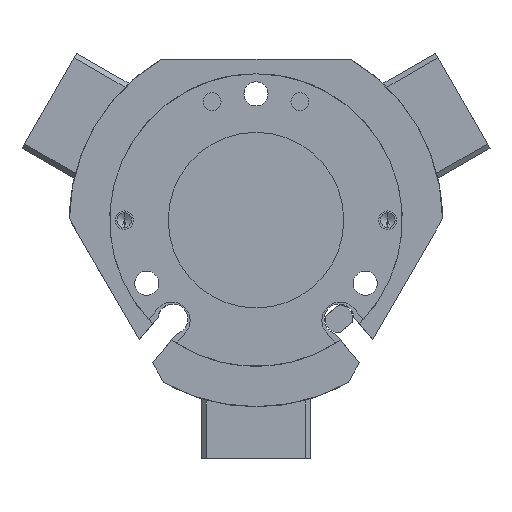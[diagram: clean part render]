
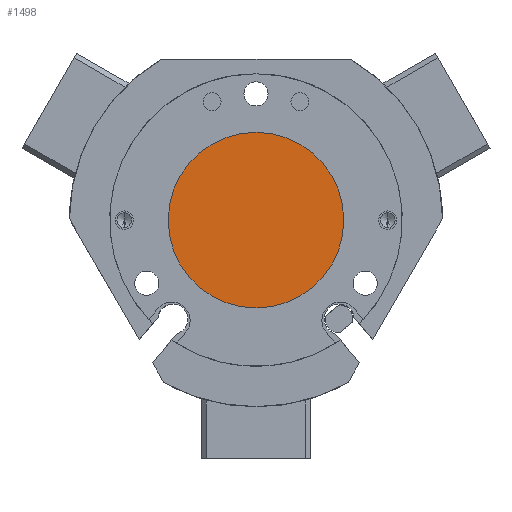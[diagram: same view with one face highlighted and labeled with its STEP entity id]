
A CAD part, front view. The second image highlights one B-rep face of the part: STEP entity #1498.
In plain terms, the highlighted planar face has unit normal (0, -1, 0) as drawn and (0, 1, 0) by its records, which use the part's own axes.
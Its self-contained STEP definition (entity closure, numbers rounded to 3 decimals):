
#222 = CARTESIAN_POINT ( 'NONE',  ( 0., 2.5, 0. ) ) ;
#629 = CARTESIAN_POINT ( 'NONE',  ( 0., 2.5, 0. ) ) ;
#754 = VERTEX_POINT ( 'NONE', #3419 ) ;
#1260 = DIRECTION ( 'NONE',  ( 0., 0., -1. ) ) ;
#1269 = CIRCLE ( 'NONE', #1833, 12. ) ;
#1498 = ADVANCED_FACE ( 'NONE', ( #7434 ), #10020, .T. ) ;
#1610 = AXIS2_PLACEMENT_3D ( 'NONE', #629, #7711, #1653 ) ;
#1653 = DIRECTION ( 'NONE',  ( 0., 0., -1. ) ) ;
#1833 = AXIS2_PLACEMENT_3D ( 'NONE', #222, #7312, #1260 ) ;
#2685 = ORIENTED_EDGE ( 'NONE', *, *, #12651, .T. ) ;
#2874 = EDGE_LOOP ( 'NONE', ( #6022, #2685 ) ) ;
#3380 = CIRCLE ( 'NONE', #1610, 12. ) ;
#3419 = CARTESIAN_POINT ( 'NONE',  ( 0., 2.5, -12. ) ) ;
#4239 = CARTESIAN_POINT ( 'NONE',  ( 0., 2.5, 12. ) ) ;
#4948 = DIRECTION ( 'NONE',  ( 0., 1., 0. ) ) ;
#5502 = EDGE_CURVE ( 'NONE', #754, #9012, #1269, .T. ) ;
#6022 = ORIENTED_EDGE ( 'NONE', *, *, #5502, .T. ) ;
#7312 = DIRECTION ( 'NONE',  ( 0., 1., 0. ) ) ;
#7434 = FACE_OUTER_BOUND ( 'NONE', #2874, .T. ) ;
#7711 = DIRECTION ( 'NONE',  ( 0., 1., 0. ) ) ;
#9012 = VERTEX_POINT ( 'NONE', #4239 ) ;
#10020 = PLANE ( 'NONE',  #10601 ) ;
#10601 = AXIS2_PLACEMENT_3D ( 'NONE', #11056, #4948, #12093 ) ;
#11056 = CARTESIAN_POINT ( 'NONE',  ( 0., 2.5, 0. ) ) ;
#12093 = DIRECTION ( 'NONE',  ( 0., 0., 1. ) ) ;
#12651 = EDGE_CURVE ( 'NONE', #9012, #754, #3380, .T. ) ;
